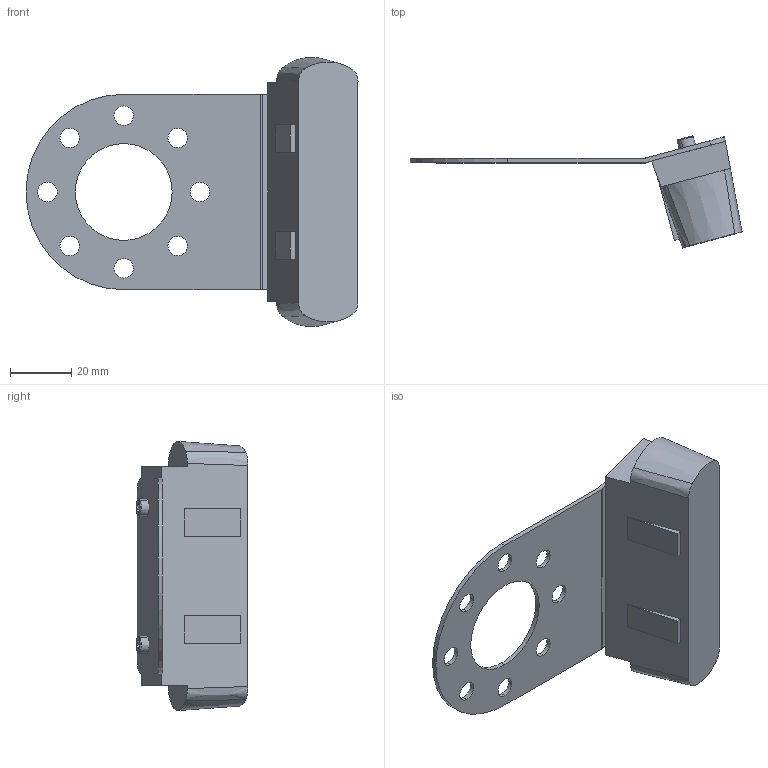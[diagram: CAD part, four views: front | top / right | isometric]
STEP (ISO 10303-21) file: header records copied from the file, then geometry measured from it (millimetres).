
FILE_DESCRIPTION (( 'STEP AP203' ), '1' );
FILE_NAME ('生态套件-星火计划-相机模块.STEP', '2024-11-08T08:47:45', ( '' ), ( '' ), 'SwSTEP 2.0', 'SolidWorks 2018', '' );
FILE_SCHEMA (( 'CONFIG_CONTROL_DESIGN' ));
Length unit declared in the file: millimetre
Products named in the file (1): 生态套件-星火计划-相机模块
Bounding box: 108.71 x 36.58 x 88.11 mm (x, y, z)
Surface area: 21152.8 mm2 (no closed solid volume)
Topology: 0 solids, 4 shells, 84 faces, 248 edges, 162 vertices
Faces by surface type: plane 43, cylinder 27, cone 6, bspline 4, torus 4
Entity records: 2994 total; most frequent: CARTESIAN_POINT 639, DIRECTION 484, ORIENTED_EDGE 443, EDGE_CURVE 244, AXIS2_PLACEMENT_3D 175, VERTEX_POINT 162, LINE 134, VECTOR 134
